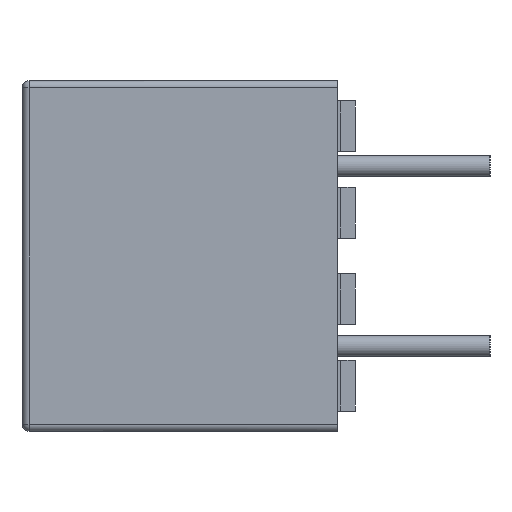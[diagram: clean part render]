
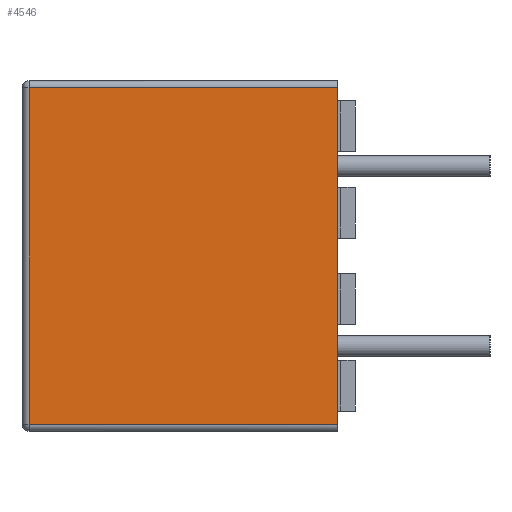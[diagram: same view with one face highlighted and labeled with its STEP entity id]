
A CAD part, left-side view. The second image highlights one B-rep face of the part: STEP entity #4546.
In plain terms, the highlighted planar face has unit normal (-1, 0, 0).
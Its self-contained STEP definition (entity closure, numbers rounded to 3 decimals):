
#3778 = EDGE_CURVE ( 'NONE', #3779, #3780, #19037, .T. ) ;
#3779 = VERTEX_POINT ( 'NONE', #19033 ) ;
#3780 = VERTEX_POINT ( 'NONE', #19032 ) ;
#4528 = ORIENTED_EDGE ( 'NONE', *, *, #4529, .T. ) ;
#4529 = EDGE_CURVE ( 'NONE', #3780, #4550, #21255, .T. ) ;
#4546 = ADVANCED_FACE ( 'NONE', ( #21278 ), #21277, .T. ) ;
#4547 = EDGE_LOOP ( 'NONE', ( #4548, #4553, #4555, #4528 ) ) ;
#4548 = ORIENTED_EDGE ( 'NONE', *, *, #4549, .T. ) ;
#4549 = EDGE_CURVE ( 'NONE', #4550, #4551, #21335, .T. ) ;
#4550 = VERTEX_POINT ( 'NONE', #21331 ) ;
#4551 = VERTEX_POINT ( 'NONE', #21330 ) ;
#4553 = ORIENTED_EDGE ( 'NONE', *, *, #4554, .T. ) ;
#4554 = EDGE_CURVE ( 'NONE', #4551, #3779, #21329, .T. ) ;
#4555 = ORIENTED_EDGE ( 'NONE', *, *, #3778, .T. ) ;
#19032 = CARTESIAN_POINT ( 'NONE',  ( -14.5, 0., 4.75 ) ) ;
#19033 = CARTESIAN_POINT ( 'NONE',  ( -14.5, 0., -4.75 ) ) ;
#19034 = DIRECTION ( 'NONE',  ( 0., 0., 1. ) ) ;
#19035 = VECTOR ( 'NONE', #19034, 1000. ) ;
#19036 = CARTESIAN_POINT ( 'NONE',  ( -14.5, 0., 4.95 ) ) ;
#19037 = LINE ( 'NONE', #19036, #19035 ) ;
#21249 = DIRECTION ( 'NONE',  ( 0., 1., 0. ) ) ;
#21250 = VECTOR ( 'NONE', #21249, 1000. ) ;
#21251 = CARTESIAN_POINT ( 'NONE',  ( -14.5, 0., 4.75 ) ) ;
#21255 = LINE ( 'NONE', #21251, #21250 ) ;
#21273 = DIRECTION ( 'NONE',  ( 0., -1., 0. ) ) ;
#21274 = DIRECTION ( 'NONE',  ( -1., 0., 0. ) ) ;
#21275 = CARTESIAN_POINT ( 'NONE',  ( -14.5, 0., 4.95 ) ) ;
#21276 = AXIS2_PLACEMENT_3D ( 'NONE', #21275, #21274, #21273 ) ;
#21277 = PLANE ( 'NONE',  #21276 ) ;
#21278 = FACE_OUTER_BOUND ( 'NONE', #4547, .T. ) ;
#21326 = DIRECTION ( 'NONE',  ( 0., -1., 0. ) ) ;
#21327 = VECTOR ( 'NONE', #21326, 1000. ) ;
#21328 = CARTESIAN_POINT ( 'NONE',  ( -14.5, 0.004, -4.75 ) ) ;
#21329 = LINE ( 'NONE', #21328, #21327 ) ;
#21330 = CARTESIAN_POINT ( 'NONE',  ( -14.497, 8.69, -4.747 ) ) ;
#21331 = CARTESIAN_POINT ( 'NONE',  ( -14.497, 8.69, 4.747 ) ) ;
#21332 = DIRECTION ( 'NONE',  ( 0., 0., -1. ) ) ;
#21333 = VECTOR ( 'NONE', #21332, 1000. ) ;
#21334 = CARTESIAN_POINT ( 'NONE',  ( -14.497, 8.69, -4.947 ) ) ;
#21335 = LINE ( 'NONE', #21334, #21333 ) ;
